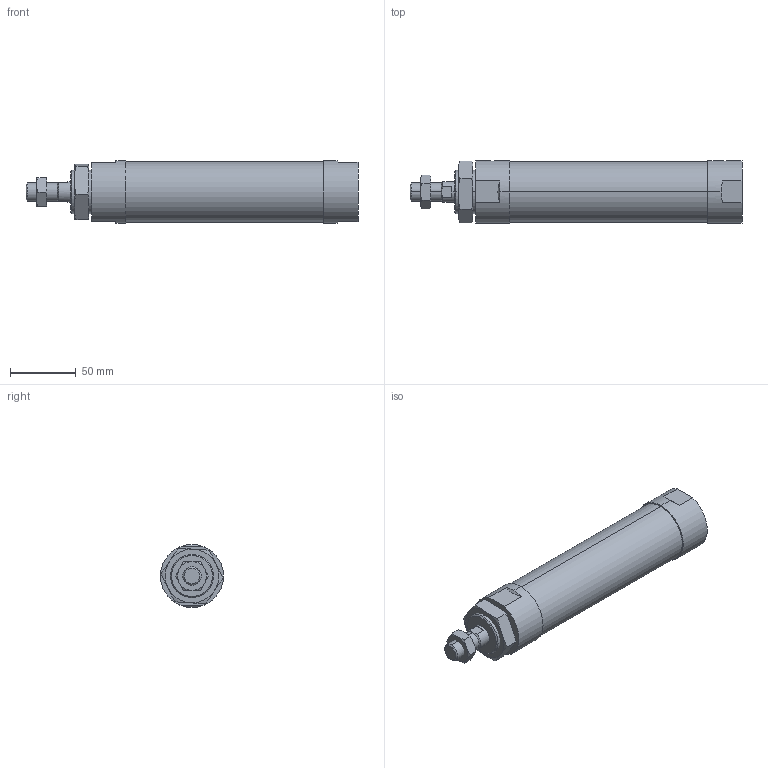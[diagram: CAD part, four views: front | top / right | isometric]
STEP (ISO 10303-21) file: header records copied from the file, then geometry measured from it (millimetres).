
FILE_DESCRIPTION (( 'STEP AP203' ), '1' );
FILE_NAME ('JGND2-40-100-N.STEP', '2016-08-04T03:10:43', ( '' ), ( '' ), 'SwSTEP 2.0', 'SolidWorks 2014', '' );
FILE_SCHEMA (( 'CONFIG_CONTROL_DESIGN' ));
Length unit declared in the file: millimetre
Products named in the file (4): JGND2-40-100-N; J#2-40-100(P)
Assembly tree (3 placements, depth 2):
  JGND2-40-100-N
    J#2-40-100(P)
    (unnamed)
    (unnamed)
Bounding box: 253 x 48 x 48 mm (x, y, z)
Volume: 370375.4 mm3; surface area: 43290.8 mm2
Topology: 3 solids, 3 shells, 89 faces, 200 edges, 119 vertices
Faces by surface type: plane 32, torus 24, cylinder 20, cone 13
Entity records: 3305 total; most frequent: CARTESIAN_POINT 1001, DIRECTION 395, ORIENTED_EDGE 392, EDGE_CURVE 196, AXIS2_PLACEMENT_3D 167, VERTEX_POINT 119, EDGE_LOOP 99, ADVANCED_FACE 89
